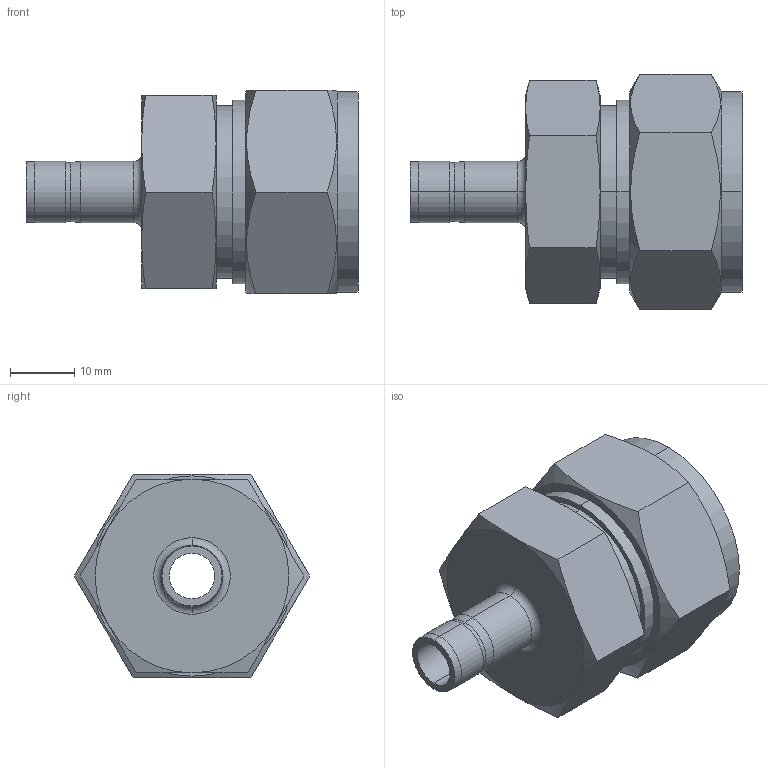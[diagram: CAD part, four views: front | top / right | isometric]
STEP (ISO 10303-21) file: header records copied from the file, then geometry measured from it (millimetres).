
FILE_DESCRIPTION (( 'STEP AP203' ), '1' );
FILE_NAME ('DRE14-06 SS.STEP', '2009-09-08T08:38:55', ( ' ' ), ( '' ), 'SwSTEP 2.0', 'SolidWorks 2008', '' );
FILE_SCHEMA (( 'CONFIG_CONTROL_DESIGN' ));
Length unit declared in the file: millimetre
Products named in the file (1): DRE14-06 SS
Bounding box: 51.7 x 36.66 x 31.75 mm (x, y, z)
Volume: 16118.3 mm3; surface area: 8416.1 mm2
Topology: 1 solids, 1 shells, 63 faces, 138 edges, 82 vertices
Faces by surface type: cone 24, plane 19, cylinder 18, torus 2
Entity records: 1973 total; most frequent: CARTESIAN_POINT 548, DIRECTION 282, ORIENTED_EDGE 276, EDGE_CURVE 138, AXIS2_PLACEMENT_3D 120, VERTEX_POINT 82, EDGE_LOOP 70, ADVANCED_FACE 63
